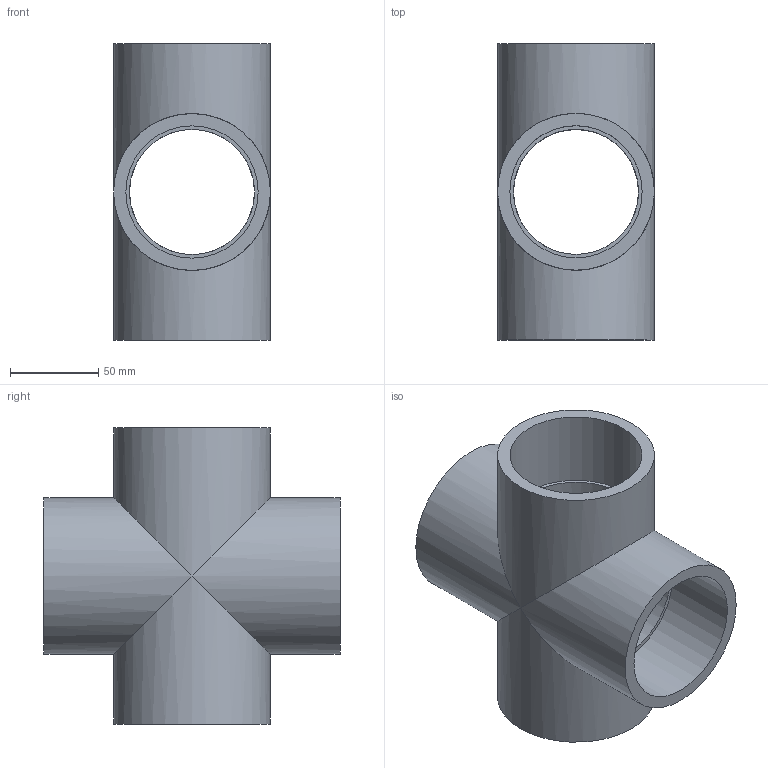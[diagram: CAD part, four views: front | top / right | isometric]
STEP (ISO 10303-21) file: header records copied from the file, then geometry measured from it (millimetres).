
FILE_DESCRIPTION(/* description */ ('Croci a 90° PVC'),/* implementation_level */ '2;1');
FILE_NAME(/* name */ 'C:\Users\POLYPIPE\Desktop\DATASET INVENTOR\LIBRERIA EFFAST\RACCORDI 3DxWEB\RDR\3D_RDRCRD\3D_RDRCRD0750.stp',/* time_stamp */ '2018-01-19T14:17:54+01:00',/* author */ ('POLYPIPE'),/* organization */ ('Polypipe Italia s.r.l.'),/* preprocessor_version */ 'ST-DEVELOPER v16.1',/* originating_system */ 'Autodesk Inventor 2016',/* authorisation */ '');
FILE_SCHEMA (('CONFIG_CONTROL_DESIGN'));
Length unit declared in the file: millimetre
Products named in the file (1): 3D_RDRCRD
Bounding box: 89 x 168 x 168 mm (x, y, z)
Volume: 447915.9 mm3; surface area: 128303.5 mm2
Topology: 1 solids, 1 shells, 20 faces, 36 edges, 20 vertices
Faces by surface type: cylinder 12, plane 8
Full cylindrical faces by diameter (mm): 71 x4, 75 x4, 89 x4
Entity records: 464 total; most frequent: DIRECTION 90, CARTESIAN_POINT 65, ORIENTED_EDGE 48, AXIS2_PLACEMENT_3D 45, EDGE_LOOP 40, EDGE_CURVE 24, FACE_BOUND 20, FACE_OUTER_BOUND 20
